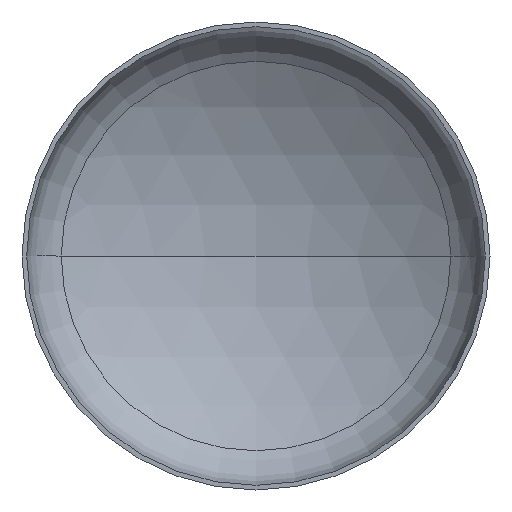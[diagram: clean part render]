
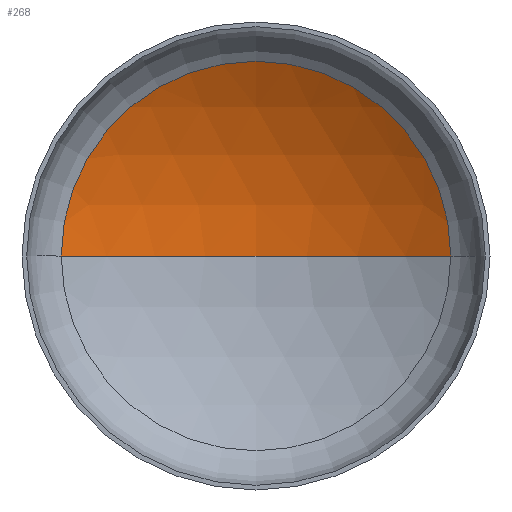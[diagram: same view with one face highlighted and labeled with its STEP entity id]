
A CAD part, front view. The second image highlights one B-rep face of the part: STEP entity #268.
In plain terms, the highlighted spherical face has radius 4000 mm.
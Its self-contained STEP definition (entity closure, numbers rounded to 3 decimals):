
#2 = ORIENTED_EDGE ( 'NONE', *, *, #111, .T. ) ;
#10 = DIRECTION ( 'NONE',  ( 1., 0., 0. ) ) ;
#15 = AXIS2_PLACEMENT_3D ( 'NONE', #147, #142, #33 ) ;
#29 = FACE_OUTER_BOUND ( 'NONE', #282, .T. ) ;
#33 = DIRECTION ( 'NONE',  ( -1., 0., 0. ) ) ;
#41 = AXIS2_PLACEMENT_3D ( 'NONE', #153, #171, #174 ) ;
#42 = AXIS2_PLACEMENT_3D ( 'NONE', #165, #106, #279 ) ;
#45 = AXIS2_PLACEMENT_3D ( 'NONE', #301, #52, #10 ) ;
#52 = DIRECTION ( 'NONE',  ( 0., -1., 0. ) ) ;
#106 = DIRECTION ( 'NONE',  ( 0., 0., -1. ) ) ;
#108 = EDGE_CURVE ( 'NONE', #375, #127, #236, .T. ) ;
#111 = EDGE_CURVE ( 'NONE', #116, #375, #378, .T. ) ;
#112 = EDGE_CURVE ( 'NONE', #116, #127, #305, .T. ) ;
#116 = VERTEX_POINT ( 'NONE', #224 ) ;
#127 = VERTEX_POINT ( 'NONE', #141 ) ;
#139 = SPHERICAL_SURFACE ( 'NONE', #15, 4000. ) ;
#141 = CARTESIAN_POINT ( 'NONE',  ( -2080.495, 807.65, 0. ) ) ;
#142 = DIRECTION ( 'NONE',  ( 0., 0., -1. ) ) ;
#147 = CARTESIAN_POINT ( 'NONE',  ( 0., -2608.713, 0. ) ) ;
#153 = CARTESIAN_POINT ( 'NONE',  ( 0., -2608.713, 0. ) ) ;
#165 = CARTESIAN_POINT ( 'NONE',  ( 0., -2608.713, 0. ) ) ;
#171 = DIRECTION ( 'NONE',  ( 0., 0., 1. ) ) ;
#174 = DIRECTION ( 'NONE',  ( 1., 0., 0. ) ) ;
#203 = ORIENTED_EDGE ( 'NONE', *, *, #108, .T. ) ;
#224 = CARTESIAN_POINT ( 'NONE',  ( 0., 1391.287, 0. ) ) ;
#236 = CIRCLE ( 'NONE', #45, 2080.495 ) ;
#268 = ADVANCED_FACE ( 'NONE', ( #29 ), #139, .F. ) ;
#279 = DIRECTION ( 'NONE',  ( -1., 0., 0. ) ) ;
#282 = EDGE_LOOP ( 'NONE', ( #344, #2, #203 ) ) ;
#301 = CARTESIAN_POINT ( 'NONE',  ( 0., 807.65, 0. ) ) ;
#305 = CIRCLE ( 'NONE', #41, 4000. ) ;
#344 = ORIENTED_EDGE ( 'NONE', *, *, #112, .F. ) ;
#373 = CARTESIAN_POINT ( 'NONE',  ( 2080.495, 807.65, 0. ) ) ;
#375 = VERTEX_POINT ( 'NONE', #373 ) ;
#378 = CIRCLE ( 'NONE', #42, 4000. ) ;
